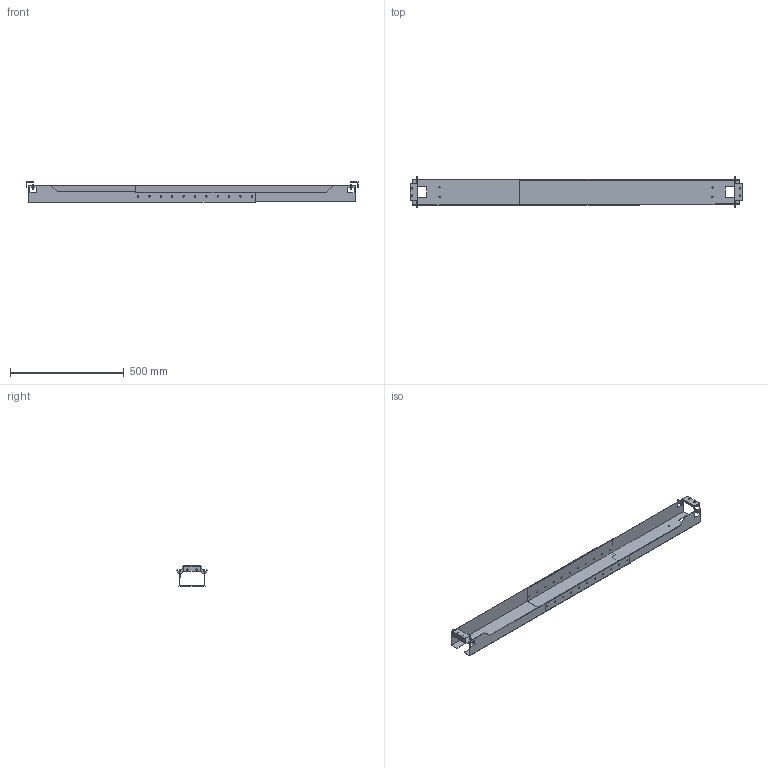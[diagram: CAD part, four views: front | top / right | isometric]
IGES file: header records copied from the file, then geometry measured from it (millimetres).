
Start section: Data from XPlus IGES,  Spatial Corp. Copyright (c) 1999-2004
Global section: file name: 9243053.igs; native system:  By Spatial Corp.; preprocessor: XPlus ACIS/IGES 3.0; author: Noname; organization: Noname; date: 20180220.170611; units: millimetre
Bounding box: 1460 x 133.54 x 89 mm (x, y, z)
Surface area: 916634.7 mm2 (no closed solid volume)
Topology: 0 solids, 0 shells, 375 faces, 2602 edges, 2602 vertices
Faces by surface type: revolution 210, extrusion 165
